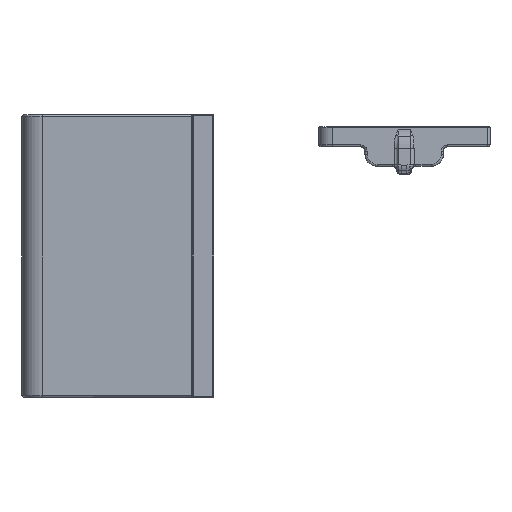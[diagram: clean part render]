
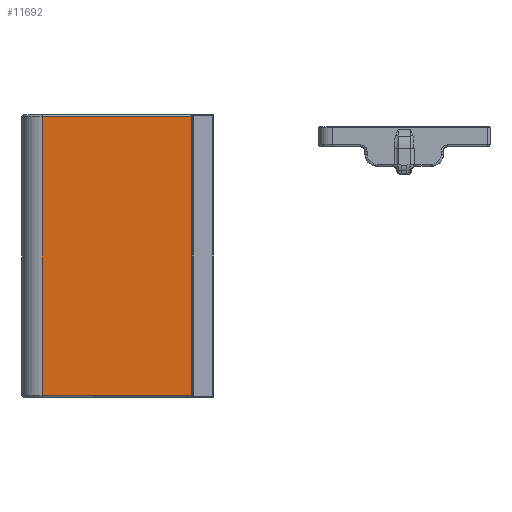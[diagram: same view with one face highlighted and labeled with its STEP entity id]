
A CAD part, left-side view. The second image highlights one B-rep face of the part: STEP entity #11692.
In plain terms, the highlighted planar face has unit normal (-1, 0, 0).
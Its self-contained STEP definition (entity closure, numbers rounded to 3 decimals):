
#1331=FACE_OUTER_BOUND('',#2083,.T.);
#2083=EDGE_LOOP('',(#9546,#9547,#9548,#9549));
#2742=LINE('',#20587,#3503);
#2866=LINE('',#21657,#3627);
#2877=LINE('',#21795,#3638);
#2880=LINE('',#21808,#3641);
#3503=VECTOR('',#14884,10.);
#3627=VECTOR('',#15488,10.);
#3638=VECTOR('',#15575,10.);
#3641=VECTOR('',#15596,10.);
#5120=VERTEX_POINT('',#20584);
#5121=VERTEX_POINT('',#20586);
#5287=VERTEX_POINT('',#21655);
#5301=VERTEX_POINT('',#21794);
#6434=EDGE_CURVE('',#5121,#5120,#2742,.T.);
#6722=EDGE_CURVE('',#5287,#5120,#2866,.T.);
#6755=EDGE_CURVE('',#5121,#5301,#2877,.T.);
#6762=EDGE_CURVE('',#5301,#5287,#2880,.T.);
#9546=ORIENTED_EDGE('',*,*,#6434,.T.);
#9547=ORIENTED_EDGE('',*,*,#6722,.F.);
#9548=ORIENTED_EDGE('',*,*,#6762,.F.);
#9549=ORIENTED_EDGE('',*,*,#6755,.F.);
#11197=PLANE('',#12854);
#11692=ADVANCED_FACE('',(#1331),#11197,.T.);
#12854=AXIS2_PLACEMENT_3D('',#21898,#15607,#15608);
#14884=DIRECTION('',(0.,0.,1.));
#15488=DIRECTION('',(0.,-1.,0.));
#15575=DIRECTION('',(0.,1.,0.));
#15596=DIRECTION('',(0.,0.,1.));
#15607=DIRECTION('center_axis',(-1.,0.,0.));
#15608=DIRECTION('ref_axis',(0.,-1.,0.));
#20584=CARTESIAN_POINT('',(-137.,1.998,73.52));
#20586=CARTESIAN_POINT('',(-137.,1.998,4.52));
#20587=CARTESIAN_POINT('',(-137.,1.998,21.52));
#21655=CARTESIAN_POINT('',(-137.,39.02,73.52));
#21657=CARTESIAN_POINT('',(-137.,23.146,73.52));
#21794=CARTESIAN_POINT('',(-137.,39.02,4.52));
#21795=CARTESIAN_POINT('',(-137.,24.145,4.52));
#21808=CARTESIAN_POINT('',(-137.,39.02,4.02));
#21898=CARTESIAN_POINT('Origin',(-137.,44.02,4.02));
